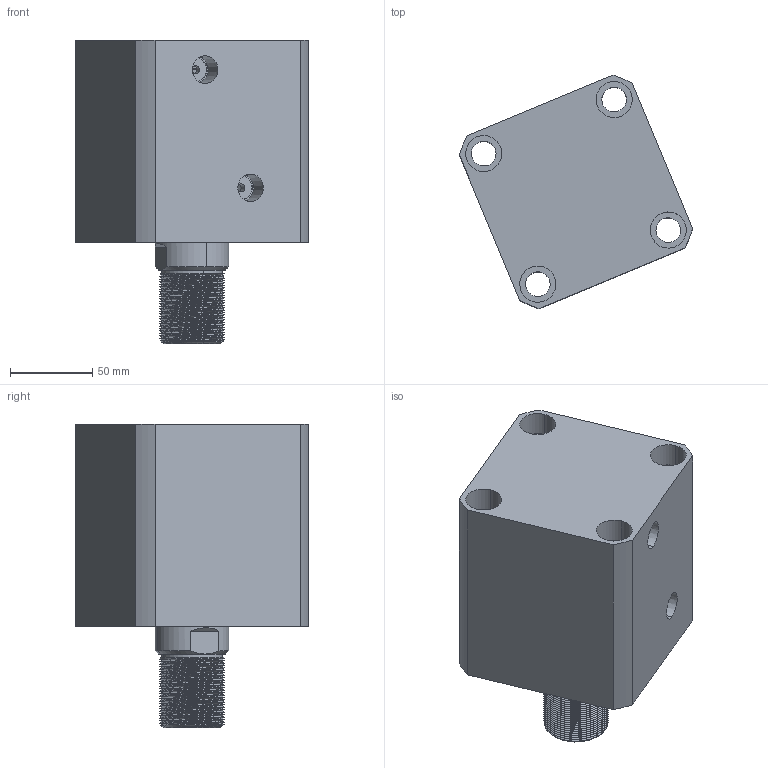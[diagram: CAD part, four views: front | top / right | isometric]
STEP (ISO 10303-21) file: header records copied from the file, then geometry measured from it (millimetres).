
FILE_DESCRIPTION (( 'STEP AP214' ), '1' );
FILE_NAME ('chtb-sd80x45n_asm.STEP', '2018-05-26T08:53:36', ( 'Windows' ), ( 'Microsoft' ), 'SwSTEP 2.0', 'SolidWorks 2015', '' );
FILE_SCHEMA (( 'AUTOMOTIVE_DESIGN' ));
Length unit declared in the file: millimetre
Products named in the file (4): CHTB-SD80X45NHSG; CHTB-SD80X45NBT; CHTB-SD80QG; chtb-sd80x45n_asm
Assembly tree (3 placements, depth 2):
  chtb-sd80x45n_asm
    CHTB-SD80QG
    CHTB-SD80X45NBT
    CHTB-SD80X45NHSG
Bounding box: 142.06 x 142.06 x 185 mm (x, y, z)
Volume: 1368671.9 mm3; surface area: 202108.1 mm2
Topology: 3 solids, 3 shells, 253 faces, 689 edges, 462 vertices
Faces by surface type: cylinder 159, plane 40, cone 20, torus 18, bspline 16
Entity records: 20271 total; most frequent: CARTESIAN_POINT 14293, ORIENTED_EDGE 1370, DIRECTION 1078, EDGE_CURVE 685, VERTEX_POINT 462, AXIS2_PLACEMENT_3D 439, EDGE_LOOP 291, ADVANCED_FACE 253
